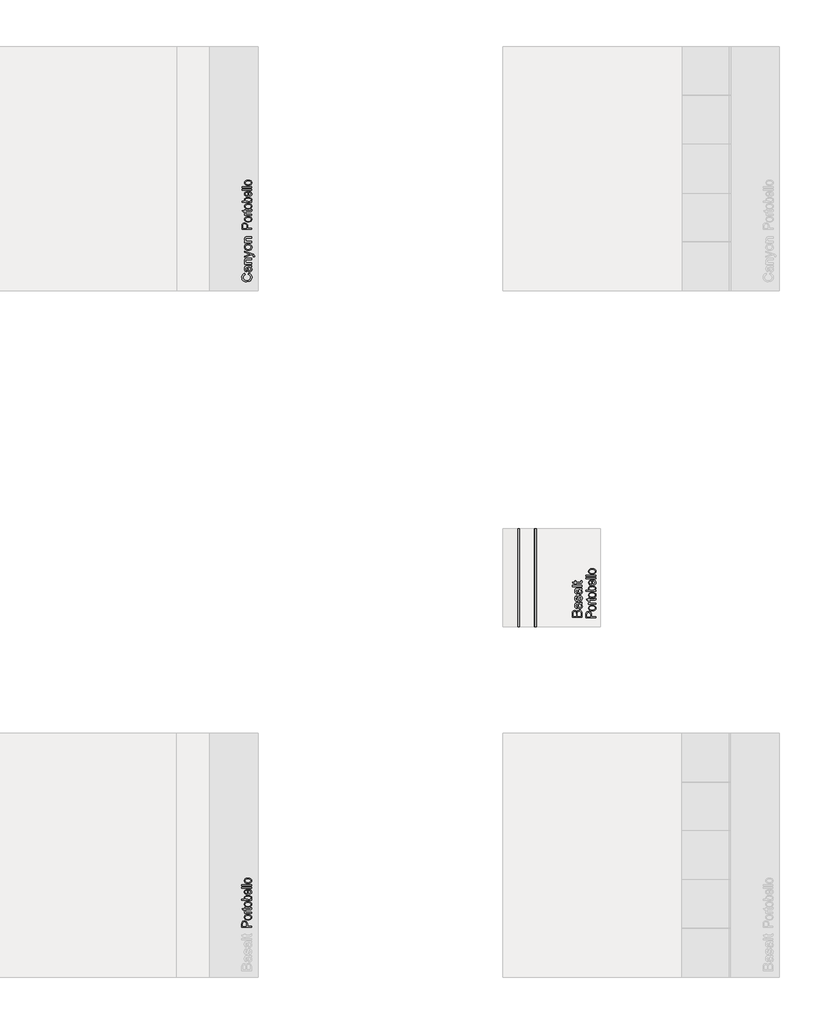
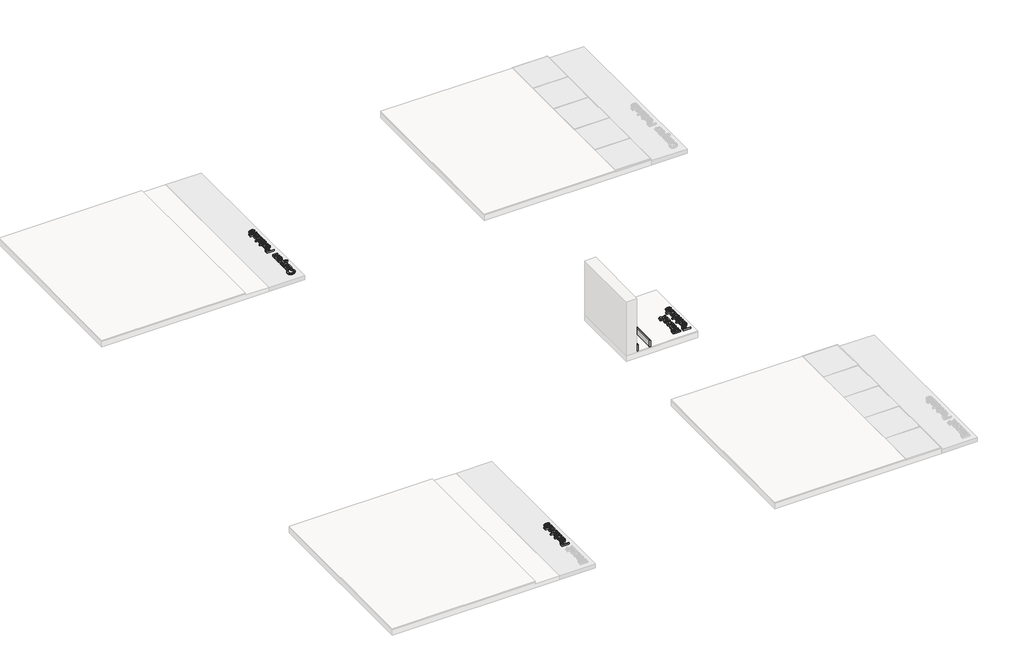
# One storey, part 3 of 6: 7 proxies.
"""IFC4 building model written with IfcOpenShell, lengths in millimetres."""

from ifc_helpers import new_model, si_unit, point, frame, frame_2d, origin, place, context, project, spatial, polyline, circle_curve, trimmed, segment, composite_curve, outline, extrude, transform, mapped, element, save
from components import skirt_basalt_be9242f7

model = new_model("IFC4")

# Units and contexts
model_context = context("Model", 3, world=origin())
ifc_project = project(units=[si_unit("LENGTHUNIT", "METRE", prefix="MILLI")], contexts=[model_context])

# Site, building, storey
site = spatial("IfcSite", under=ifc_project)
building = spatial("IfcBuilding", under=site)
storey = spatial("IfcBuildingStorey", under=building, Name="PORTOBELLO - SHOWROOM", Elevation=0.0)

# Proxies
placement = place(None, origin())
element("IfcBuildingElementProxy", 1, Name="RODAPÉ BLOCKLINE SKIRT BASALT 50X10 EXT BOLD", ObjectType="RODAPÉ BLOCKLINE SKIRT BASALT 50X10 EXT BOLD", at=placement, inside=storey, context=model_context, shape_type="SweptSolid", body=[
    extrude(outline(composite_curve([segment(polyline([(115.9999099, -5641.9813168), (16.0, -5641.9813168), (16.0, -5621.9813168), (102.2999099, -5621.9813168)]), True, "CONTINUOUS"), segment(trimmed(circle_curve(frame_2d((102.2999099, -5635.6813168)), 13.7), [point((102.2999099, -5621.9813168))], [point((115.9999099, -5635.6813168))], False, "CARTESIAN"), True, "CONTINUOUS"), segment(polyline([(115.9999099, -5635.6813168), (115.9999099, -5641.9813168)]), True, "CONTINUOUS")], self_intersect=False)), frame((0.0, -4833.608239, 0.0), z_axis=(0.0, 1.0, 0.0), x_axis=(0.0, 0.0, 1.0)), (0.0, 0.0, 1.0), 1000.0),
])
element("IfcBuildingElementProxy", 2, Name="10mm Arial", ObjectType="10mm Arial", at=placement, inside=storey, context=model_context, shape_type="SweptSolid", body=[
    extrude(outline(polyline([(-8400.0663909, -1228.1118177), (-8396.8290294, -1215.5547789), (-8382.196523, -1221.3489203), (-8371.5064854, -1230.441737), (-8364.9673829, -1242.3856391), (-8362.7876821, -1256.7330369), (-8364.4370197, -1271.2980982), (-8369.3850326, -1282.8649213), (-8377.4600423, -1291.7308774), (-8388.4903708, -1298.1933377), (-8415.3457565, -1303.4540503), (-8429.9935913, -1301.9671939), (-8442.6426005, -1297.5066247), (-8452.8911798, -1290.3053346), (-8460.3377245, -1280.5963156), (-8464.8718701, -1269.0816092), (-8466.3832519, -1256.4632568), (-8464.427346, -1242.6952731), (-8458.5596282, -1231.312391), (-8449.1418491, -1222.6702298), (-8436.5357594, -1217.1244087), (-8433.5436525, -1229.6814475), (-8448.9824336, -1239.9821434), (-8453.8262132, -1256.9537661), (-8448.455136, -1276.5986646), (-8434.0341618, -1287.6964381), (-8415.3702819, -1290.8970115), (-8393.7388206, -1287.1078269), (-8379.9187203, -1275.3110776), (-8375.3447209, -1257.9838357), (-8376.902088, -1247.5022645), (-8381.5741893, -1238.7681328), (-8389.311974, -1232.173848), (-8400.0663909, -1228.1118177)])), frame((0.0, 0.0, -17.1171569), z_axis=(0.0, 0.0, 1.0), x_axis=(1.0, 0.0, 0.0)), (0.0, 0.0, 1.0), 20.0),
    extrude(outline(polyline([(-8373.775091, -1152.769585), (-8365.2647542, -1164.9464791), (-8362.7876821, -1178.3986974), (-8364.2776042, -1188.8925313), (-8368.7473704, -1196.6333816), (-8375.5347932, -1201.4066505), (-8383.977685, -1202.9977401), (-8393.9104989, -1200.5942444), (-8401.120986, -1194.2789368), (-8405.2412643, -1185.4865571), (-8407.1297253, -1174.6217756), (-8411.4462073, -1152.8431614), (-8414.2421105, -1152.769585), (-8423.5127368, -1156.2276758), (-8427.1425058, -1170.1090897), (-8424.7267474, -1182.8132813), (-8416.1550969, -1188.8710715), (-8417.7247267, -1201.4281103), (-8429.9874599, -1195.9957195), (-8437.1734215, -1185.0573615), (-8439.6995446, -1168.490409), (-8437.4677271, -1153.2723571), (-8431.8636581, -1144.6761811), (-8423.3410585, -1140.8256829), (-8412.3536496, -1140.2125463), (-8396.7309275, -1140.2125463), (-8374.9155252, -1139.5748842), (-8364.357312, -1137.0732866), (-8364.357312, -1149.6303254), (-8373.775091, -1152.769585)]), holes=[polyline([(-8398.8891686, -1152.769585), (-8395.0386703, -1173.0276202), (-8393.0030566, -1183.8310882), (-8389.6921187, -1188.7239187), (-8384.8606018, -1190.4407013), (-8378.0670476, -1186.7005677), (-8375.3447209, -1175.7254215), (-8378.3490905, -1163.02123), (-8385.6208913, -1154.8297242), (-8395.3329759, -1152.8431614), (-8398.8891686, -1152.769585)])]), frame((0.0, 0.0, -17.1171569), z_axis=(0.0, 0.0, 1.0), x_axis=(1.0, 0.0, 0.0)), (0.0, 0.0, 1.0), 20.0),
    extrude(outline(polyline([(-8364.357312, -1122.946618), (-8438.1299147, -1122.946618), (-8438.1299147, -1110.3895792), (-8427.8292189, -1110.3895792), (-8436.7319631, -1100.7878591), (-8439.6995446, -1087.6789974), (-8437.3083116, -1075.8209344), (-8431.0297922, -1067.7275305), (-8421.7959541, -1063.9628714), (-8409.6558483, -1063.3006838), (-8364.357312, -1063.3006838), (-8364.357312, -1075.8577226), (-8407.9635911, -1075.8577226), (-8419.0736274, -1077.3047251), (-8424.9474766, -1082.4182848), (-8427.1425058, -1091.0389863), (-8422.2128871, -1104.6628828), (-8415.069845, -1108.9579051), (-8403.4999562, -1110.3895792), (-8364.357312, -1110.3895792), (-8364.357312, -1122.946618)])), frame((0.0, 0.0, -17.1171569), z_axis=(0.0, 0.0, 1.0), x_axis=(1.0, 0.0, 0.0)), (0.0, 0.0, 1.0), 20.0),
    extrude(outline(polyline([(-8336.1039747, -1046.0347555), (-8348.1950296, -1047.6043854), (-8347.0913836, -1041.2277641), (-8348.4770725, -1035.2680758), (-8352.3398334, -1031.6137813), (-8361.5859343, -1028.180216), (-8364.6270921, -1027.1991974), (-8438.1299147, -1053.8829047), (-8438.1299147, -1040.6636784), (-8397.1478605, -1026.4879588), (-8380.7648489, -1021.5583401), (-8395.2593995, -1016.6287214), (-8438.1299147, -1002.0851198), (-8438.1299147, -988.9639953), (-8362.5914784, -1014.6421586), (-8346.2084669, -1021.3130854), (-8337.3547735, -1028.5971489), (-8334.5343449, -1038.3582845), (-8336.1039747, -1046.0347555)])), frame((0.0, 0.0, -17.1171569), z_axis=(0.0, 0.0, 1.0), x_axis=(1.0, 0.0, 0.0)), (0.0, 0.0, 1.0), 20.0),
    extrude(outline(polyline([(-8401.2436133, -981.6799318), (-8419.0307078, -978.9637364), (-8431.5325643, -970.8151502), (-8437.6577995, -960.7474463), (-8439.6995446, -948.6931796), (-8437.2132754, -935.5015444), (-8429.754468, -924.9647909), (-8417.9117334, -918.0578064), (-8402.2736829, -915.7554783), (-8379.9309831, -919.8267057), (-8367.2881052, -931.6847687), (-8362.7876821, -948.6931796), (-8365.2647542, -962.0442303), (-8372.6959705, -972.5687211), (-8384.7870254, -979.4021291), (-8401.2436133, -981.6799318)]), holes=[polyline([(-8401.2681388, -969.1228931), (-8389.9036508, -967.6697592), (-8381.8071813, -963.3103575), (-8376.960336, -956.7497953), (-8375.3447209, -948.6931796), (-8376.969533, -940.6733521), (-8381.8439695, -934.1250526), (-8390.0477379, -929.7656509), (-8401.6605463, -928.3125171), (-8412.6939404, -929.774848), (-8420.6800454, -934.1618408), (-8425.5268907, -940.7193373), (-8427.1425058, -948.6931796), (-8425.5330221, -956.7497953), (-8420.7045709, -963.3103575), (-8412.6264954, -967.6697592), (-8401.2681388, -969.1228931)])]), frame((0.0, 0.0, -17.1171569), z_axis=(0.0, 0.0, 1.0), x_axis=(1.0, 0.0, 0.0)), (0.0, 0.0, 1.0), 20.0),
    extrude(outline(polyline([(-8364.357312, -901.6288097), (-8438.1299147, -901.6288097), (-8438.1299147, -889.0717709), (-8427.8292189, -889.0717709), (-8436.7319631, -879.4700508), (-8439.6995446, -866.3611891), (-8437.3083116, -854.5031261), (-8431.0297922, -846.4097222), (-8421.7959541, -842.6450631), (-8409.6558483, -841.9828755), (-8364.357312, -841.9828755), (-8364.357312, -854.5399143), (-8407.9635911, -854.5399143), (-8419.0736274, -855.9869168), (-8424.9474766, -861.1004765), (-8427.1425058, -869.721178), (-8422.2128871, -883.3450745), (-8415.069845, -887.6400968), (-8403.4999562, -889.0717709), (-8364.357312, -889.0717709), (-8364.357312, -901.6288097)])), frame((0.0, 0.0, -17.1171569), z_axis=(0.0, 0.0, 1.0), x_axis=(1.0, 0.0, 0.0)), (0.0, 0.0, 1.0), 20.0),
])
element("IfcBuildingElementProxy", 3, Name="10mm Arial", ObjectType="10mm Arial", at=placement, inside=storey, context=model_context, shape_type="SweptSolid", body=[
    extrude(outline(polyline([(-4978.8191534, -4740.8068146), (-5079.2754636, -4740.8068146), (-5079.2754636, -4702.4735107), (-5076.3201449, -4683.6992662), (-5067.2334596, -4672.6137554), (-5054.3821152, -4668.6038417), (-5042.6466796, -4671.9760933), (-5033.756198, -4682.1664245), (-5024.3874699, -4669.7933268), (-5008.7647478, -4665.464582), (-4995.2634786, -4668.4199007), (-4985.6494958, -4675.7407524), (-4980.5481988, -4686.6668476), (-4978.8191534, -4702.7678163), (-4978.8191534, -4740.8068146)]), holes=[polyline([(-5038.4650876, -4728.2497758), (-5038.4650876, -4705.3184648), (-5039.5442081, -4691.9275602), (-5044.191784, -4683.8709445), (-5052.371027, -4681.1608804), (-5060.5625328, -4683.6870035), (-5065.4063124, -4690.922016), (-5066.7184248, -4707.0597729), (-5066.7184248, -4728.2497758), (-5038.4650876, -4728.2497758)]), polyline([(-4991.3761922, -4728.2497758), (-4991.3761922, -4702.4980361), (-4991.8667015, -4693.1783589), (-4994.601291, -4685.2934215), (-5000.1808346, -4680.0694972), (-5008.6421205, -4678.0216207), (-5018.4032561, -4680.4251164), (-5024.2280544, -4688.211952), (-5025.9080488, -4703.7243095), (-5025.9080488, -4728.2497758), (-4991.3761922, -4728.2497758)])]), frame((0.0, 0.0, 16.0), z_axis=(0.0, 0.0, 1.0), x_axis=(1.0, 0.0, 0.0)), (0.0, 0.0, 1.0), 20.0),
    extrude(outline(polyline([(-4988.2369325, -4602.6793881), (-4979.7265957, -4614.8562822), (-4977.2495236, -4628.3085005), (-4978.7394457, -4638.8023344), (-4983.2092119, -4646.5431847), (-4989.9966347, -4651.3164536), (-4998.4395265, -4652.9075432), (-5008.3723404, -4650.5040475), (-5015.5828275, -4644.1887399), (-5019.7031058, -4635.3963602), (-5021.5915667, -4624.5315786), (-5025.9080488, -4602.7529645), (-5028.703952, -4602.6793881), (-5037.9745782, -4606.1374789), (-5041.6043473, -4620.0188928), (-5039.1885888, -4632.7230844), (-5030.6169383, -4638.7808746), (-5032.1865682, -4651.3379134), (-5044.4493014, -4645.9055226), (-5051.635263, -4634.9671646), (-5054.161386, -4618.4002121), (-5051.9295686, -4603.1821602), (-5046.3254995, -4594.5859842), (-5037.8029, -4590.735486), (-5026.8154911, -4590.1223494), (-5011.192769, -4590.1223494), (-4989.3773667, -4589.4846872), (-4978.8191534, -4586.9830897), (-4978.8191534, -4599.5401284), (-4988.2369325, -4602.6793881)]), holes=[polyline([(-5013.35101, -4602.6793881), (-5009.5005118, -4622.9374233), (-5007.4648981, -4633.7408912), (-5004.1539602, -4638.6337218), (-4999.3224433, -4640.3505044), (-4992.5288891, -4636.6103708), (-4989.8065623, -4625.6352246), (-4992.810932, -4612.9310331), (-5000.0827327, -4604.7395273), (-5009.7948174, -4602.7529645), (-5013.35101, -4602.6793881)])]), frame((0.0, 0.0, 16.0), z_axis=(0.0, 0.0, 1.0), x_axis=(1.0, 0.0, 0.0)), (0.0, 0.0, 1.0), 20.0),
    extrude(outline(polyline([(-5000.7939713, -4577.5653106), (-5002.3636011, -4565.0082718), (-4993.0439239, -4559.1957363), (-4989.8065623, -4545.8784081), (-4992.7741438, -4533.0761146), (-4999.7393762, -4528.9067854), (-5005.3802335, -4533.1006401), (-5008.9609516, -4546.0255609), (-5015.1045809, -4564.9346954), (-5022.2782798, -4573.1875148), (-5032.4072974, -4575.9956807), (-5041.7637628, -4573.7393378), (-5048.9129362, -4567.5834458), (-5052.6285444, -4559.6004065), (-5054.161386, -4548.7969386), (-5051.6965767, -4533.517573), (-5045.0256498, -4523.8054884), (-5033.756198, -4519.4890063), (-5032.1865682, -4532.046045), (-5039.1150124, -4536.7671973), (-5041.6043473, -4547.8159199), (-5039.225377, -4559.8333984), (-5033.6826216, -4563.438642), (-5030.0283272, -4561.9425885), (-5027.2569495, -4557.2582245), (-5024.5836736, -4546.4424938), (-5018.6730362, -4528.0116058), (-5011.9775839, -4519.4522181), (-5001.0637514, -4516.3497466), (-4989.0462729, -4519.9917783), (-4980.3274696, -4530.5009407), (-4977.2495236, -4546.0500863), (-4978.7333143, -4558.7113583), (-4983.1846864, -4567.9513278), (-4990.5545891, -4574.1194826), (-5000.7939713, -4577.5653106)])), frame((0.0, 0.0, 16.0), z_axis=(0.0, 0.0, 1.0), x_axis=(1.0, 0.0, 0.0)), (0.0, 0.0, 1.0), 20.0),
    extrude(outline(polyline([(-4988.2369325, -4455.1341826), (-4979.7265957, -4467.3110766), (-4977.2495236, -4480.7632949), (-4978.7394457, -4491.2571288), (-4983.2092119, -4498.9979791), (-4989.9966347, -4503.771248), (-4998.4395265, -4505.3623377), (-5008.3723404, -4502.958842), (-5015.5828275, -4496.6435344), (-5019.7031058, -4487.8511547), (-5021.5915667, -4476.9863731), (-5025.9080488, -4455.207759), (-5028.703952, -4455.1341826), (-5037.9745782, -4458.5922733), (-5041.6043473, -4472.4736873), (-5039.1885888, -4485.1778789), (-5030.6169383, -4491.2356691), (-5032.1865682, -4503.7927078), (-5044.4493014, -4498.360317), (-5051.635263, -4487.421959), (-5054.161386, -4470.8550065), (-5051.9295686, -4455.6369547), (-5046.3254995, -4447.0407787), (-5037.8029, -4443.1902805), (-5026.8154911, -4442.5771438), (-5011.192769, -4442.5771438), (-4989.3773667, -4441.9394817), (-4978.8191534, -4439.4378841), (-4978.8191534, -4451.9949229), (-4988.2369325, -4455.1341826)]), holes=[polyline([(-5013.35101, -4455.1341826), (-5009.5005118, -4475.3922178), (-5007.4648981, -4486.1956857), (-5004.1539602, -4491.0885163), (-4999.3224433, -4492.8052989), (-4992.5288891, -4489.0651653), (-4989.8065623, -4478.0900191), (-4992.810932, -4465.3858275), (-5000.0827327, -4457.1943218), (-5009.7948174, -4455.207759), (-5013.35101, -4455.1341826)])]), frame((0.0, 0.0, 16.0), z_axis=(0.0, 0.0, 1.0), x_axis=(1.0, 0.0, 0.0)), (0.0, 0.0, 1.0), 20.0),
    extrude(outline(polyline([(-4978.8191534, -4425.3112155), (-5079.2754636, -4425.3112155), (-5079.2754636, -4412.7541767), (-4978.8191534, -4412.7541767), (-4978.8191534, -4425.3112155)])), frame((0.0, 0.0, 16.0), z_axis=(0.0, 0.0, 1.0), x_axis=(1.0, 0.0, 0.0)), (0.0, 0.0, 1.0), 20.0),
    extrude(outline(polyline([(-4989.2915276, -4367.2349112), (-4978.4512714, -4365.6652814), (-4977.2495236, -4375.058535), (-4979.3341882, -4385.57996), (-4984.8033672, -4390.8284098), (-4999.0526632, -4392.3489887), (-5040.0347174, -4392.3489887), (-5040.0347174, -4401.7667678), (-5052.5917562, -4401.7667678), (-5052.5917562, -4392.3489887), (-5070.5198721, -4392.3489887), (-5077.9020375, -4379.79195), (-5052.5917562, -4379.79195), (-5052.5917562, -4367.2349112), (-5040.0347174, -4367.2349112), (-5040.0347174, -4379.79195), (-4999.4205452, -4379.79195), (-4992.945822, -4379.1297624), (-4990.6526909, -4376.9837841), (-4989.8065623, -4372.7040902), (-4989.2915276, -4367.2349112)])), frame((0.0, 0.0, 16.0), z_axis=(0.0, 0.0, 1.0), x_axis=(1.0, 0.0, 0.0)), (0.0, 0.0, 1.0), 20.0),
])
element("IfcBuildingElementProxy", 4, Name="10mm Arial Narrow", ObjectType="10mm Arial Narrow", at=placement, inside=storey, context=model_context, shape_type="SweptSolid", body=[
    extrude(outline(polyline([(-8366.357312, -7911.6199743), (-8467.0759157, -7911.6199743), (-8467.0759157, -7880.3230896), (-8465.197595, -7864.0273881), (-8455.7171518, -7852.554402), (-8438.698043, -7848.2647236), (-8426.6222174, -7850.051032), (-8416.9958237, -7855.4099572), (-8410.6945653, -7865.153746), (-8408.5941458, -7880.0946452), (-8408.5941458, -7901.8730127), (-8366.357312, -7901.8730127), (-8366.357312, -7911.6199743)]), holes=[polyline([(-8419.965601, -7901.8730127), (-8419.965601, -7878.9016577), (-8424.4964153, -7863.0374623), (-8438.165006, -7858.0116852), (-8448.3307824, -7860.4864997), (-8454.1307323, -7866.4641285), (-8455.7044604, -7879.1301021), (-8455.7044604, -7901.8730127), (-8419.965601, -7901.8730127)])]), frame((0.0, 0.0, -17.1171569), z_axis=(0.0, 0.0, 1.0), x_axis=(1.0, 0.0, 0.0)), (0.0, 0.0, 1.0), 20.0),
    extrude(outline(polyline([(-8402.9084182, -7840.1422555), (-8419.4991937, -7838.1877867), (-8431.4512785, -7832.32438), (-8438.6758331, -7823.4658133), (-8441.084018, -7812.5258642), (-8438.6758331, -7801.7128286), (-8431.4512785, -7792.8288792), (-8419.689564, -7786.8893244), (-8403.6698995, -7784.9094728), (-8386.5080129, -7786.8544232), (-8374.3655578, -7792.6892742), (-8367.1410032, -7801.5383224), (-8364.7328183, -7812.5258642), (-8367.1473489, -7823.3864923), (-8374.3909405, -7832.2609233), (-8386.349371, -7838.1719225), (-8402.9084182, -7840.1422555)]), holes=[polyline([(-8402.9338009, -7830.3952939), (-8390.3820495, -7829.091257), (-8381.5107914, -7825.1791464), (-8376.2375328, -7819.3379497), (-8374.47978, -7812.2466543), (-8376.253397, -7805.5265812), (-8381.5742482, -7799.8345079), (-8390.4613704, -7795.9509528), (-8402.9338009, -7794.6564345), (-8415.4474782, -7795.9604713), (-8424.3060449, -7799.8725819), (-8429.5793035, -7805.7137787), (-8431.3370563, -7812.805074), (-8429.5697849, -7819.5727398), (-8424.2679708, -7825.2552946), (-8415.3998856, -7829.110294), (-8402.9338009, -7830.3952939)])]), frame((0.0, 0.0, -17.1171569), z_axis=(0.0, 0.0, 1.0), x_axis=(1.0, 0.0, 0.0)), (0.0, 0.0, 1.0), 20.0),
    extrude(outline(polyline([(-8374.47978, -7713.431754), (-8364.7328183, -7711.8072604), (-8364.7328183, -7719.1682471), (-8366.8522748, -7727.4430114), (-8372.6522247, -7731.7580726), (-8387.2980499, -7732.9256773), (-8429.7125627, -7732.9256773), (-8429.7125627, -7741.0481454), (-8432.9615499, -7741.0481454), (-8428.0880691, -7742.672639), (-8429.7125627, -7750.2366874), (-8427.3900445, -7756.315847), (-8420.9047614, -7760.1867107), (-8405.4974548, -7762.1665623), (-8366.357312, -7762.1665623), (-8366.357312, -7771.913524), (-8439.4595244, -7771.913524), (-8439.4595244, -7762.1665623), (-8429.7633281, -7762.1665623), (-8438.8503392, -7755.922415), (-8441.084018, -7749.5259714), (-8439.4595244, -7741.0481454), (-8439.4595244, -7732.9256773), (-8455.7044604, -7732.9256773), (-8463.8269285, -7723.1787157), (-8439.4595244, -7723.1787157), (-8439.4595244, -7713.431754), (-8429.7125627, -7713.431754), (-8429.7125627, -7723.1787157), (-8385.0643712, -7723.1787157), (-8377.0688167, -7722.3157035), (-8374.47978, -7717.6960498), (-8374.47978, -7713.431754)])), frame((0.0, 0.0, -17.1171569), z_axis=(0.0, 0.0, 1.0), x_axis=(1.0, 0.0, 0.0)), (0.0, 0.0, 1.0), 20.0),
    extrude(outline(polyline([(-8402.9084182, -7706.9337796), (-8419.4991937, -7704.9793107), (-8431.4512785, -7699.1159041), (-8438.6758331, -7690.2573374), (-8441.084018, -7679.3173882), (-8438.6758331, -7668.5043527), (-8431.4512785, -7659.6204032), (-8419.689564, -7653.6808485), (-8403.6698995, -7651.7009969), (-8386.5080129, -7653.6459472), (-8374.3655578, -7659.4807983), (-8367.1410032, -7668.3298465), (-8364.7328183, -7679.3173882), (-8367.1473489, -7690.1780164), (-8374.3909405, -7699.0524473), (-8386.349371, -7704.9634465), (-8402.9084182, -7706.9337796)]), holes=[polyline([(-8402.9338009, -7697.1868179), (-8390.3820495, -7695.8827811), (-8381.5107914, -7691.9706705), (-8376.2375328, -7686.1294737), (-8374.47978, -7679.0381784), (-8376.253397, -7672.3181052), (-8381.5742482, -7666.6260319), (-8390.4613704, -7662.7424769), (-8402.9338009, -7661.4479585), (-8415.4474782, -7662.7519954), (-8424.3060449, -7666.664106), (-8429.5793035, -7672.5053027), (-8431.3370563, -7679.5965981), (-8429.5697849, -7686.3642638), (-8424.2679708, -7692.0468186), (-8415.3998856, -7695.9018181), (-8402.9338009, -7697.1868179)])]), frame((0.0, 0.0, -17.1171569), z_axis=(0.0, 0.0, 1.0), x_axis=(1.0, 0.0, 0.0)), (0.0, 0.0, 1.0), 20.0),
    extrude(outline(polyline([(-8366.357312, -7628.9580864), (-8366.357312, -7638.705048), (-8467.0759157, -7638.705048), (-8467.0759157, -7628.9580864), (-8431.6670316, -7628.9580864), (-8438.7488084, -7621.5590256), (-8441.084018, -7612.3577923), (-8436.883179, -7599.4760656), (-8424.1537486, -7590.1986842), (-8403.4668378, -7586.7212525), (-8387.0124944, -7588.6535115), (-8374.8097553, -7594.4502885), (-8367.2520526, -7602.8234109), (-8364.7328183, -7612.4847059), (-8367.3472377, -7621.8255441), (-8375.1143478, -7628.9580864), (-8366.357312, -7628.9580864)]), holes=[polyline([(-8403.4668378, -7628.9580864), (-8386.2192846, -7626.8767039), (-8377.4876314, -7620.9879146), (-8374.47978, -7612.5354713), (-8376.2692612, -7606.5927437), (-8381.637705, -7601.3543864), (-8403.0607144, -7596.4682142), (-8424.4964153, -7601.1767074), (-8429.626896, -7606.4214104), (-8431.3370563, -7612.738533), (-8429.5475751, -7618.7161618), (-8424.1791313, -7624.0084574), (-8403.4668378, -7628.9580864)])]), frame((0.0, 0.0, -17.1171569), z_axis=(0.0, 0.0, 1.0), x_axis=(1.0, 0.0, 0.0)), (0.0, 0.0, 1.0), 20.0),
    extrude(outline(polyline([(-8389.1002225, -7534.737457), (-8387.4757289, -7524.9904954), (-8377.5891623, -7528.6900258), (-8370.4693114, -7534.5090126), (-8366.1669416, -7542.2126659), (-8364.7328183, -7551.5661955), (-8367.1473489, -7563.1597495), (-8374.3909405, -7572.3038718), (-8386.1970747, -7578.2434265), (-8402.299233, -7580.2232781), (-8418.9661567, -7578.233908), (-8431.146686, -7572.2657977), (-8438.599685, -7563.2517619), (-8441.084018, -7552.1246152), (-8438.6853516, -7541.441666), (-8431.4893526, -7532.6941487), (-8419.749848, -7526.8592976), (-8403.720665, -7524.9143473), (-8400.4716777, -7524.9904954), (-8400.4716777, -7570.4763164), (-8381.0285199, -7564.4733049), (-8376.116965, -7558.5432687), (-8374.47978, -7551.439282), (-8378.1348906, -7541.2608142), (-8389.1002225, -7534.737457)]), holes=[polyline([(-8410.2186394, -7569.8163659), (-8410.2186394, -7534.737457), (-8424.4837239, -7539.0017528), (-8429.6237232, -7544.8270853), (-8431.3370563, -7552.0484671), (-8425.625946, -7564.2575518), (-8410.2186394, -7569.8163659)])]), frame((0.0, 0.0, -17.1171569), z_axis=(0.0, 0.0, 1.0), x_axis=(1.0, 0.0, 0.0)), (0.0, 0.0, 1.0), 20.0),
    extrude(outline(polyline([(-8366.357312, -7511.9945465), (-8467.0759157, -7511.9945465), (-8467.0759157, -7502.2475849), (-8366.357312, -7502.2475849), (-8366.357312, -7511.9945465)])), frame((0.0, 0.0, -17.1171569), z_axis=(0.0, 0.0, 1.0), x_axis=(1.0, 0.0, 0.0)), (0.0, 0.0, 1.0), 20.0),
    extrude(outline(polyline([(-8366.357312, -7486.0026488), (-8467.0759157, -7486.0026488), (-8467.0759157, -7476.2556871), (-8366.357312, -7476.2556871), (-8366.357312, -7486.0026488)])), frame((0.0, 0.0, -17.1171569), z_axis=(0.0, 0.0, 1.0), x_axis=(1.0, 0.0, 0.0)), (0.0, 0.0, 1.0), 20.0),
    extrude(outline(polyline([(-8402.9084182, -7464.8842319), (-8419.4991937, -7462.929763), (-8431.4512785, -7457.0663564), (-8438.6758331, -7448.2077897), (-8441.084018, -7437.2678405), (-8438.6758331, -7426.4548049), (-8431.4512785, -7417.5708555), (-8419.689564, -7411.6313007), (-8403.6698995, -7409.6514492), (-8386.5080129, -7411.5963995), (-8374.3655578, -7417.4312506), (-8367.1410032, -7426.2802988), (-8364.7328183, -7437.2678405), (-8367.1473489, -7448.1284687), (-8374.3909405, -7457.0028996), (-8386.349371, -7462.9138988), (-8402.9084182, -7464.8842319)]), holes=[polyline([(-8402.9338009, -7455.1372702), (-8390.3820495, -7453.8332334), (-8381.5107914, -7449.9211228), (-8376.2375328, -7444.079926), (-8374.47978, -7436.9886307), (-8376.253397, -7430.2685575), (-8381.5742482, -7424.5764842), (-8390.4613704, -7420.6929292), (-8402.9338009, -7419.3984108), (-8415.4474782, -7420.7024477), (-8424.3060449, -7424.6145583), (-8429.5793035, -7430.455755), (-8431.3370563, -7437.5470504), (-8429.5697849, -7444.3147161), (-8424.2679708, -7449.9972709), (-8415.3998856, -7453.8522704), (-8402.9338009, -7455.1372702)])]), frame((0.0, 0.0, -17.1171569), z_axis=(0.0, 0.0, 1.0), x_axis=(1.0, 0.0, 0.0)), (0.0, 0.0, 1.0), 20.0),
])
element("IfcBuildingElementProxy", 5, Name="10mm Arial Narrow", ObjectType="10mm Arial Narrow", at=placement, inside=storey, context=model_context, shape_type="SweptSolid", body=[
    extrude(outline(polyline([(-8364.357312, -763.026365), (-8465.0759157, -763.026365), (-8465.0759157, -731.7294803), (-8463.197595, -715.4337788), (-8453.7171518, -703.9607927), (-8436.698043, -699.6711143), (-8424.6222174, -701.4574227), (-8414.9958237, -706.8163479), (-8408.6945653, -716.5601367), (-8406.5941458, -731.5010359), (-8406.5941458, -753.2794033), (-8364.357312, -753.2794033), (-8364.357312, -763.026365)]), holes=[polyline([(-8417.965601, -753.2794033), (-8417.965601, -730.3080484), (-8422.4964153, -714.443853), (-8436.165006, -709.4180759), (-8446.3307824, -711.8928904), (-8452.1307323, -717.8705192), (-8453.7044604, -730.5364928), (-8453.7044604, -753.2794033), (-8417.965601, -753.2794033)])]), frame((0.0, 0.0, -17.1171569), z_axis=(0.0, 0.0, 1.0), x_axis=(1.0, 0.0, 0.0)), (0.0, 0.0, 1.0), 20.0),
    extrude(outline(polyline([(-8400.9084182, -691.5486462), (-8417.4991937, -689.5941773), (-8429.4512785, -683.7307707), (-8436.6758331, -674.872204), (-8439.084018, -663.9322549), (-8436.6758331, -653.1192193), (-8429.4512785, -644.2352699), (-8417.689564, -638.2957151), (-8401.6698995, -636.3158635), (-8384.5080129, -638.2608139), (-8372.3655578, -644.0956649), (-8365.1410032, -652.9447131), (-8362.7328183, -663.9322549), (-8365.1473489, -674.792883), (-8372.3909405, -683.6673139), (-8384.349371, -689.5783131), (-8400.9084182, -691.5486462)]), holes=[polyline([(-8400.9338009, -681.8016846), (-8388.3820495, -680.4976477), (-8379.5107914, -676.5855371), (-8374.2375328, -670.7443404), (-8372.47978, -663.653045), (-8374.253397, -656.9329718), (-8379.5742482, -651.2408985), (-8388.4613704, -647.3573435), (-8400.9338009, -646.0628252), (-8413.4474782, -647.366862), (-8422.3060449, -651.2789726), (-8427.5793035, -657.1201694), (-8429.3370563, -664.2114647), (-8427.5697849, -670.9791305), (-8422.2679708, -676.6616852), (-8413.3998856, -680.5166847), (-8400.9338009, -681.8016846)])]), frame((0.0, 0.0, -17.1171569), z_axis=(0.0, 0.0, 1.0), x_axis=(1.0, 0.0, 0.0)), (0.0, 0.0, 1.0), 20.0),
    extrude(outline(polyline([(-8372.47978, -564.8381447), (-8362.7328183, -563.2136511), (-8362.7328183, -570.5746378), (-8364.8522748, -578.8494021), (-8370.6522247, -583.1644632), (-8385.2980499, -584.332068), (-8427.7125627, -584.332068), (-8427.7125627, -592.4545361), (-8430.9615499, -592.4545361), (-8426.0880691, -594.0790297), (-8427.7125627, -601.643078), (-8425.3900445, -607.7222377), (-8418.9047614, -611.5931014), (-8403.4974548, -613.572953), (-8364.357312, -613.572953), (-8364.357312, -623.3199146), (-8437.4595244, -623.3199146), (-8437.4595244, -613.572953), (-8427.7633281, -613.572953), (-8436.8503392, -607.3288057), (-8439.084018, -600.9323621), (-8437.4595244, -592.4545361), (-8437.4595244, -584.332068), (-8453.7044604, -584.332068), (-8461.8269285, -574.5851064), (-8437.4595244, -574.5851064), (-8437.4595244, -564.8381447), (-8427.7125627, -564.8381447), (-8427.7125627, -574.5851064), (-8383.0643712, -574.5851064), (-8375.0688167, -573.7220941), (-8372.47978, -569.1024404), (-8372.47978, -564.8381447)])), frame((0.0, 0.0, -17.1171569), z_axis=(0.0, 0.0, 1.0), x_axis=(1.0, 0.0, 0.0)), (0.0, 0.0, 1.0), 20.0),
    extrude(outline(polyline([(-8400.9084182, -558.3401703), (-8417.4991937, -556.3857014), (-8429.4512785, -550.5222948), (-8436.6758331, -541.6637281), (-8439.084018, -530.7237789), (-8436.6758331, -519.9107433), (-8429.4512785, -511.0267939), (-8417.689564, -505.0872392), (-8401.6698995, -503.1073876), (-8384.5080129, -505.0523379), (-8372.3655578, -510.887189), (-8365.1410032, -519.7362372), (-8362.7328183, -530.7237789), (-8365.1473489, -541.5844071), (-8372.3909405, -550.458838), (-8384.349371, -556.3698372), (-8400.9084182, -558.3401703)]), holes=[polyline([(-8400.9338009, -548.5932086), (-8388.3820495, -547.2891718), (-8379.5107914, -543.3770612), (-8374.2375328, -537.5358644), (-8372.47978, -530.4445691), (-8374.253397, -523.7244959), (-8379.5742482, -518.0324226), (-8388.4613704, -514.1488676), (-8400.9338009, -512.8543492), (-8413.4474782, -514.1583861), (-8422.3060449, -518.0704967), (-8427.5793035, -523.9116934), (-8429.3370563, -531.0029888), (-8427.5697849, -537.7706545), (-8422.2679708, -543.4532093), (-8413.3998856, -547.3082088), (-8400.9338009, -548.5932086)])]), frame((0.0, 0.0, -17.1171569), z_axis=(0.0, 0.0, 1.0), x_axis=(1.0, 0.0, 0.0)), (0.0, 0.0, 1.0), 20.0),
    extrude(outline(polyline([(-8364.357312, -480.3644771), (-8364.357312, -490.1114387), (-8465.0759157, -490.1114387), (-8465.0759157, -480.3644771), (-8429.6670316, -480.3644771), (-8436.7488084, -472.9654163), (-8439.084018, -463.764183), (-8434.883179, -450.8824563), (-8422.1537486, -441.6050749), (-8401.4668378, -438.1276432), (-8385.0124944, -440.0599022), (-8372.8097553, -445.8566792), (-8365.2520526, -454.2298015), (-8362.7328183, -463.8910965), (-8365.3472377, -473.2319348), (-8373.1143478, -480.3644771), (-8364.357312, -480.3644771)]), holes=[polyline([(-8401.4668378, -480.3644771), (-8384.2192846, -478.2830946), (-8375.4876314, -472.3943053), (-8372.47978, -463.941862), (-8374.2692612, -457.9991344), (-8379.637705, -452.7607771), (-8401.0607144, -447.8746049), (-8422.4964153, -452.5830981), (-8427.626896, -457.8278011), (-8429.3370563, -464.1449237), (-8427.5475751, -470.1225525), (-8422.1791313, -475.4148481), (-8401.4668378, -480.3644771)])]), frame((0.0, 0.0, -17.1171569), z_axis=(0.0, 0.0, 1.0), x_axis=(1.0, 0.0, 0.0)), (0.0, 0.0, 1.0), 20.0),
    extrude(outline(polyline([(-8387.1002225, -386.1438477), (-8385.4757289, -376.3968861), (-8375.5891623, -380.0964164), (-8368.4693114, -385.9154033), (-8364.1669416, -393.6190566), (-8362.7328183, -402.9725862), (-8365.1473489, -414.5661402), (-8372.3909405, -423.7102624), (-8384.1970747, -429.6498172), (-8400.299233, -431.6296688), (-8416.9661567, -429.6402987), (-8429.146686, -423.6721884), (-8436.599685, -414.6581525), (-8439.084018, -403.5310059), (-8436.6853516, -392.8480567), (-8429.4893526, -384.1005394), (-8417.749848, -378.2656883), (-8401.720665, -376.3207379), (-8398.4716777, -376.3968861), (-8398.4716777, -421.8827071), (-8379.0285199, -415.8796956), (-8374.116965, -409.9496594), (-8372.47978, -402.8456727), (-8376.1348906, -392.6672049), (-8387.1002225, -386.1438477)]), holes=[polyline([(-8408.2186394, -421.2227566), (-8408.2186394, -386.1438477), (-8422.4837239, -390.4081435), (-8427.6237232, -396.233476), (-8429.3370563, -403.4548578), (-8423.625946, -415.6639425), (-8408.2186394, -421.2227566)])]), frame((0.0, 0.0, -17.1171569), z_axis=(0.0, 0.0, 1.0), x_axis=(1.0, 0.0, 0.0)), (0.0, 0.0, 1.0), 20.0),
    extrude(outline(polyline([(-8364.357312, -363.4009372), (-8465.0759157, -363.4009372), (-8465.0759157, -353.6539756), (-8364.357312, -353.6539756), (-8364.357312, -363.4009372)])), frame((0.0, 0.0, -17.1171569), z_axis=(0.0, 0.0, 1.0), x_axis=(1.0, 0.0, 0.0)), (0.0, 0.0, 1.0), 20.0),
    extrude(outline(polyline([(-8364.357312, -337.4090395), (-8465.0759157, -337.4090395), (-8465.0759157, -327.6620778), (-8364.357312, -327.6620778), (-8364.357312, -337.4090395)])), frame((0.0, 0.0, -17.1171569), z_axis=(0.0, 0.0, 1.0), x_axis=(1.0, 0.0, 0.0)), (0.0, 0.0, 1.0), 20.0),
    extrude(outline(polyline([(-8400.9084182, -316.2906226), (-8417.4991937, -314.3361537), (-8429.4512785, -308.4727471), (-8436.6758331, -299.6141803), (-8439.084018, -288.6742312), (-8436.6758331, -277.8611956), (-8429.4512785, -268.9772462), (-8417.689564, -263.0376914), (-8401.6698995, -261.0578398), (-8384.5080129, -263.0027902), (-8372.3655578, -268.8376413), (-8365.1410032, -277.6866895), (-8362.7328183, -288.6742312), (-8365.1473489, -299.5348594), (-8372.3909405, -308.4092903), (-8384.349371, -314.3202895), (-8400.9084182, -316.2906226)]), holes=[polyline([(-8400.9338009, -306.5436609), (-8388.3820495, -305.239624), (-8379.5107914, -301.3275134), (-8374.2375328, -295.4863167), (-8372.47978, -288.3950214), (-8374.253397, -281.6749482), (-8379.5742482, -275.9828749), (-8388.4613704, -272.0993198), (-8400.9338009, -270.8048015), (-8413.4474782, -272.1088384), (-8422.3060449, -276.0209489), (-8427.5793035, -281.8621457), (-8429.3370563, -288.953441), (-8427.5697849, -295.7211068), (-8422.2679708, -301.4036616), (-8413.3998856, -305.2586611), (-8400.9338009, -306.5436609)])]), frame((0.0, 0.0, -17.1171569), z_axis=(0.0, 0.0, 1.0), x_axis=(1.0, 0.0, 0.0)), (0.0, 0.0, 1.0), 20.0),
])
element("IfcBuildingElementProxy", 6, Name="10mm Arial Narrow", ObjectType="10mm Arial Narrow", at=placement, inside=storey, context=model_context, shape_type="SweptSolid", body=[
    extrude(outline(polyline([(-4838.8191534, -4743.6717555), (-4939.5377572, -4743.6717555), (-4939.5377572, -4712.3748708), (-4937.6594364, -4696.0791693), (-4928.1789933, -4684.6061831), (-4911.1598844, -4680.3165047), (-4899.0840589, -4682.1028131), (-4889.4576651, -4687.4617383), (-4883.1564067, -4697.2055271), (-4881.0559873, -4712.1464264), (-4881.0559873, -4733.9247938), (-4838.8191534, -4733.9247938), (-4838.8191534, -4743.6717555)]), holes=[polyline([(-4892.4274425, -4733.9247938), (-4892.4274425, -4710.9534389), (-4896.9582567, -4695.0892435), (-4910.6268475, -4690.0634664), (-4920.7926239, -4692.5382808), (-4926.5925737, -4698.5159097), (-4928.1663019, -4711.1818833), (-4928.1663019, -4733.9247938), (-4892.4274425, -4733.9247938)])]), frame((0.0, 0.0, 16.0), z_axis=(0.0, 0.0, 1.0), x_axis=(1.0, 0.0, 0.0)), (0.0, 0.0, 1.0), 20.0),
    extrude(outline(polyline([(-4875.3702596, -4672.1940367), (-4891.9610352, -4670.2395678), (-4903.91312, -4664.3761612), (-4911.1376746, -4655.5175945), (-4913.5458594, -4644.5776453), (-4911.1376746, -4633.7646097), (-4903.91312, -4624.8806603), (-4892.1514055, -4618.9411055), (-4876.131741, -4616.961254), (-4858.9698544, -4618.9062043), (-4846.8273993, -4624.7410554), (-4839.6028447, -4633.5901036), (-4837.1946598, -4644.5776453), (-4839.6091904, -4655.4382735), (-4846.852782, -4664.3127044), (-4858.8112125, -4670.2237036), (-4875.3702596, -4672.1940367)]), holes=[polyline([(-4875.3956423, -4662.447075), (-4862.8438909, -4661.1430381), (-4853.9726329, -4657.2309276), (-4848.6993743, -4651.3897308), (-4846.9416215, -4644.2984355), (-4848.7152385, -4637.5783623), (-4854.0360896, -4631.886289), (-4862.9232119, -4628.002734), (-4875.3956423, -4626.7082156), (-4887.9093197, -4628.0122525), (-4896.7678864, -4631.9243631), (-4902.0411449, -4637.7655598), (-4903.7988978, -4644.8568552), (-4902.0316264, -4651.6245209), (-4896.7298123, -4657.3070757), (-4887.8617271, -4661.1620752), (-4875.3956423, -4662.447075)])]), frame((0.0, 0.0, 16.0), z_axis=(0.0, 0.0, 1.0), x_axis=(1.0, 0.0, 0.0)), (0.0, 0.0, 1.0), 20.0),
    extrude(outline(polyline([(-4846.9416215, -4545.4835352), (-4837.1946598, -4543.8590416), (-4837.1946598, -4551.2200282), (-4839.3141163, -4559.4947925), (-4845.1140662, -4563.8098537), (-4859.7598914, -4564.9774585), (-4902.1744042, -4564.9774585), (-4902.1744042, -4573.0999265), (-4905.4233914, -4573.0999265), (-4900.5499106, -4574.7244201), (-4902.1744042, -4582.2884685), (-4899.851886, -4588.3676282), (-4893.3666029, -4592.2384919), (-4877.9592963, -4594.2183434), (-4838.8191534, -4594.2183434), (-4838.8191534, -4603.9653051), (-4911.9213658, -4603.9653051), (-4911.9213658, -4594.2183434), (-4902.2251696, -4594.2183434), (-4911.3121807, -4587.9741961), (-4913.5458594, -4581.5777525), (-4911.9213658, -4573.0999265), (-4911.9213658, -4564.9774585), (-4928.1663019, -4564.9774585), (-4936.28877, -4555.2304968), (-4911.9213658, -4555.2304968), (-4911.9213658, -4545.4835352), (-4902.1744042, -4545.4835352), (-4902.1744042, -4555.2304968), (-4857.5262126, -4555.2304968), (-4849.5306582, -4554.3674846), (-4846.9416215, -4549.7478309), (-4846.9416215, -4545.4835352)])), frame((0.0, 0.0, 16.0), z_axis=(0.0, 0.0, 1.0), x_axis=(1.0, 0.0, 0.0)), (0.0, 0.0, 1.0), 20.0),
    extrude(outline(polyline([(-4875.3702596, -4538.9855607), (-4891.9610352, -4537.0310919), (-4903.91312, -4531.1676852), (-4911.1376746, -4522.3091185), (-4913.5458594, -4511.3691694), (-4911.1376746, -4500.5561338), (-4903.91312, -4491.6721844), (-4892.1514055, -4485.7326296), (-4876.131741, -4483.752778), (-4858.9698544, -4485.6977284), (-4846.8273993, -4491.5325795), (-4839.6028447, -4500.3816276), (-4837.1946598, -4511.3691694), (-4839.6091904, -4522.2297976), (-4846.852782, -4531.1042285), (-4858.8112125, -4537.0152277), (-4875.3702596, -4538.9855607)]), holes=[polyline([(-4875.3956423, -4529.2385991), (-4862.8438909, -4527.9345622), (-4853.9726329, -4524.0224516), (-4848.6993743, -4518.1812549), (-4846.9416215, -4511.0899595), (-4848.7152385, -4504.3698864), (-4854.0360896, -4498.6778131), (-4862.9232119, -4494.794258), (-4875.3956423, -4493.4997397), (-4887.9093197, -4494.8037765), (-4896.7678864, -4498.7158871), (-4902.0411449, -4504.5570839), (-4903.7988978, -4511.6483792), (-4902.0316264, -4518.416045), (-4896.7298123, -4524.0985998), (-4887.8617271, -4527.9535993), (-4875.3956423, -4529.2385991)])]), frame((0.0, 0.0, 16.0), z_axis=(0.0, 0.0, 1.0), x_axis=(1.0, 0.0, 0.0)), (0.0, 0.0, 1.0), 20.0),
    extrude(outline(polyline([(-4838.8191534, -4461.0098675), (-4838.8191534, -4470.7568292), (-4939.5377572, -4470.7568292), (-4939.5377572, -4461.0098675), (-4904.128873, -4461.0098675), (-4911.2106499, -4453.6108068), (-4913.5458594, -4444.4095734), (-4909.3450205, -4431.5278468), (-4896.6155901, -4422.2504653), (-4875.9286793, -4418.7730337), (-4859.4743358, -4420.7052927), (-4847.2715967, -4426.5020697), (-4839.713894, -4434.875192), (-4837.1946598, -4444.536487), (-4839.8090792, -4453.8773253), (-4847.5761893, -4461.0098675), (-4838.8191534, -4461.0098675)]), holes=[polyline([(-4875.9286793, -4461.0098675), (-4858.6811261, -4458.9284851), (-4849.9494729, -4453.0396957), (-4846.9416215, -4444.5872524), (-4848.7311027, -4438.6445248), (-4854.0995464, -4433.4061675), (-4875.5225559, -4428.5199953), (-4896.9582567, -4433.2284885), (-4902.0887375, -4438.4731915), (-4903.7988978, -4444.7903141), (-4902.0094165, -4450.767943), (-4896.6409728, -4456.0602385), (-4875.9286793, -4461.0098675)])]), frame((0.0, 0.0, 16.0), z_axis=(0.0, 0.0, 1.0), x_axis=(1.0, 0.0, 0.0)), (0.0, 0.0, 1.0), 20.0),
    extrude(outline(polyline([(-4861.5620639, -4366.7892382), (-4859.9375703, -4357.0422765), (-4850.0510038, -4360.7418069), (-4842.9311529, -4366.5607938), (-4838.6287831, -4374.2644471), (-4837.1946598, -4383.6179767), (-4839.6091904, -4395.2115307), (-4846.852782, -4404.3556529), (-4858.6589162, -4410.2952077), (-4874.7610745, -4412.2750592), (-4891.4279982, -4410.2856891), (-4903.6085274, -4404.3175788), (-4911.0615264, -4395.303543), (-4913.5458594, -4384.1763963), (-4911.1471931, -4373.4934472), (-4903.9511941, -4364.7459298), (-4892.2116895, -4358.9110788), (-4876.1825064, -4356.9661284), (-4872.9335192, -4357.0422765), (-4872.9335192, -4402.5280976), (-4853.4903613, -4396.525086), (-4848.5788064, -4390.5950498), (-4846.9416215, -4383.4910631), (-4850.5967321, -4373.3125953), (-4861.5620639, -4366.7892382)]), holes=[polyline([(-4882.6804809, -4401.8681471), (-4882.6804809, -4366.7892382), (-4896.9455654, -4371.0535339), (-4902.0855647, -4376.8788665), (-4903.7988978, -4384.1002482), (-4898.0877874, -4396.309333), (-4882.6804809, -4401.8681471)])]), frame((0.0, 0.0, 16.0), z_axis=(0.0, 0.0, 1.0), x_axis=(1.0, 0.0, 0.0)), (0.0, 0.0, 1.0), 20.0),
    extrude(outline(polyline([(-4838.8191534, -4344.0463277), (-4939.5377572, -4344.0463277), (-4939.5377572, -4334.299366), (-4838.8191534, -4334.299366), (-4838.8191534, -4344.0463277)])), frame((0.0, 0.0, 16.0), z_axis=(0.0, 0.0, 1.0), x_axis=(1.0, 0.0, 0.0)), (0.0, 0.0, 1.0), 20.0),
    extrude(outline(polyline([(-4838.8191534, -4318.0544299), (-4939.5377572, -4318.0544299), (-4939.5377572, -4308.3074683), (-4838.8191534, -4308.3074683), (-4838.8191534, -4318.0544299)])), frame((0.0, 0.0, 16.0), z_axis=(0.0, 0.0, 1.0), x_axis=(1.0, 0.0, 0.0)), (0.0, 0.0, 1.0), 20.0),
    extrude(outline(polyline([(-4875.3702596, -4296.936013), (-4891.9610352, -4294.9815441), (-4903.91312, -4289.1181375), (-4911.1376746, -4280.2595708), (-4913.5458594, -4269.3196217), (-4911.1376746, -4258.5065861), (-4903.91312, -4249.6226366), (-4892.1514055, -4243.6830819), (-4876.131741, -4241.7032303), (-4858.9698544, -4243.6481807), (-4846.8273993, -4249.4830317), (-4839.6028447, -4258.3320799), (-4837.1946598, -4269.3196217), (-4839.6091904, -4280.1802498), (-4846.852782, -4289.0546807), (-4858.8112125, -4294.9656799), (-4875.3702596, -4296.936013)]), holes=[polyline([(-4875.3956423, -4287.1890514), (-4862.8438909, -4285.8850145), (-4853.9726329, -4281.9729039), (-4848.6993743, -4276.1317072), (-4846.9416215, -4269.0404118), (-4848.7152385, -4262.3203386), (-4854.0360896, -4256.6282653), (-4862.9232119, -4252.7447103), (-4875.3956423, -4251.450192), (-4887.9093197, -4252.7542288), (-4896.7678864, -4256.6663394), (-4902.0411449, -4262.5075361), (-4903.7988978, -4269.5988315), (-4902.0316264, -4276.3664972), (-4896.7298123, -4282.049052), (-4887.8617271, -4285.9040515), (-4875.3956423, -4287.1890514)])]), frame((0.0, 0.0, 16.0), z_axis=(0.0, 0.0, 1.0), x_axis=(1.0, 0.0, 0.0)), (0.0, 0.0, 1.0), 20.0),
])
skirt_basalt_shape = skirt_basalt_be9242f7(model_context)
element("IfcBuildingElementProxy", 7, Name="PORTOBELLO - RODAPÉ BLOCKLINE SKIRT BASALT 50X10 EXT BOLD (BASE NA LINHA) : SKIRT BASALT", ObjectType="PORTOBELLO - RODAPÉ BLOCKLINE SKIRT BASALT 50X10 EXT BOLD (BASE NA LINHA) : SKIRT BASALT", at=placement, inside=storey, context=model_context, shape_type="MappedRepresentation", body=[
    mapped(skirt_basalt_shape, transform((-5466.9813168, -4833.608239, 16.0), x_axis=(0.0, 1.0, 0.0), y_axis=(-1.0, 0.0, 0.0), z_axis=(0.0, 0.0, 1.0))),
])

save(model, "model.ifc")
